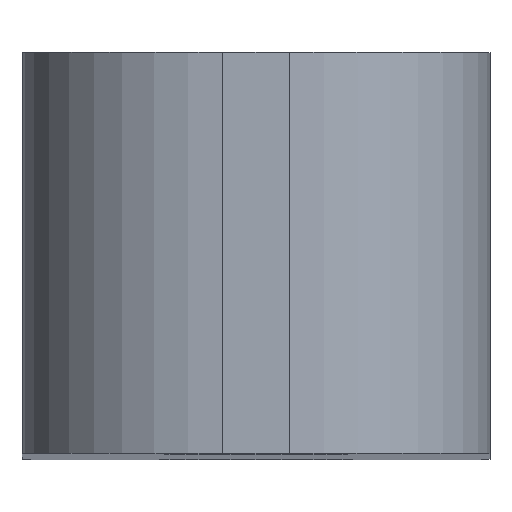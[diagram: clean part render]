
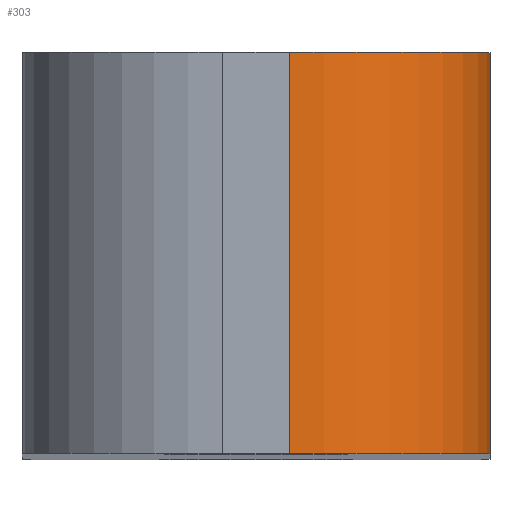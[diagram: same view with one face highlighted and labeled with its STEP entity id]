
A CAD part, top view. The second image highlights one B-rep face of the part: STEP entity #303.
In plain terms, the highlighted cylindrical face has radius 6 mm (diameter 12 mm), a partial arc.
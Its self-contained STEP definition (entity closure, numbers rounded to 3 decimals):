
#99 = VERTEX_POINT('',#100);
#100 = CARTESIAN_POINT('',(173.,-251.2,482.));
#106 = EDGE_CURVE('',#99,#107,#109,.T.);
#107 = VERTEX_POINT('',#108);
#108 = CARTESIAN_POINT('',(179.,-251.2,476.));
#109 = CIRCLE('',#110,6.);
#110 = AXIS2_PLACEMENT_3D('',#111,#112,#113);
#111 = CARTESIAN_POINT('',(173.,-251.2,476.));
#112 = DIRECTION('',(0.,1.,0.));
#113 = DIRECTION('',(0.,-0.,1.));
#187 = VERTEX_POINT('',#188);
#188 = CARTESIAN_POINT('',(179.,-263.2,476.));
#194 = EDGE_CURVE('',#195,#187,#197,.T.);
#195 = VERTEX_POINT('',#196);
#196 = CARTESIAN_POINT('',(173.,-263.2,482.));
#197 = CIRCLE('',#198,6.);
#198 = AXIS2_PLACEMENT_3D('',#199,#200,#201);
#199 = CARTESIAN_POINT('',(173.,-263.2,476.));
#200 = DIRECTION('',(0.,1.,0.));
#201 = DIRECTION('',(0.,-0.,1.));
#293 = EDGE_CURVE('',#187,#107,#294,.T.);
#294 = LINE('',#295,#296);
#295 = CARTESIAN_POINT('',(179.,-263.2,476.));
#296 = VECTOR('',#297,1.);
#297 = DIRECTION('',(-0.,1.,0.));
#303 = ADVANCED_FACE('',(#304),#315,.T.);
#304 = FACE_BOUND('',#305,.T.);
#305 = EDGE_LOOP('',(#306,#307,#313,#314));
#306 = ORIENTED_EDGE('',*,*,#106,.F.);
#307 = ORIENTED_EDGE('',*,*,#308,.F.);
#308 = EDGE_CURVE('',#195,#99,#309,.T.);
#309 = LINE('',#310,#311);
#310 = CARTESIAN_POINT('',(173.,-263.2,482.));
#311 = VECTOR('',#312,1.);
#312 = DIRECTION('',(-0.,1.,0.));
#313 = ORIENTED_EDGE('',*,*,#194,.T.);
#314 = ORIENTED_EDGE('',*,*,#293,.T.);
#315 = CYLINDRICAL_SURFACE('',#316,6.);
#316 = AXIS2_PLACEMENT_3D('',#317,#318,#319);
#317 = CARTESIAN_POINT('',(173.,-263.2,476.));
#318 = DIRECTION('',(0.,1.,0.));
#319 = DIRECTION('',(0.,-0.,1.));
